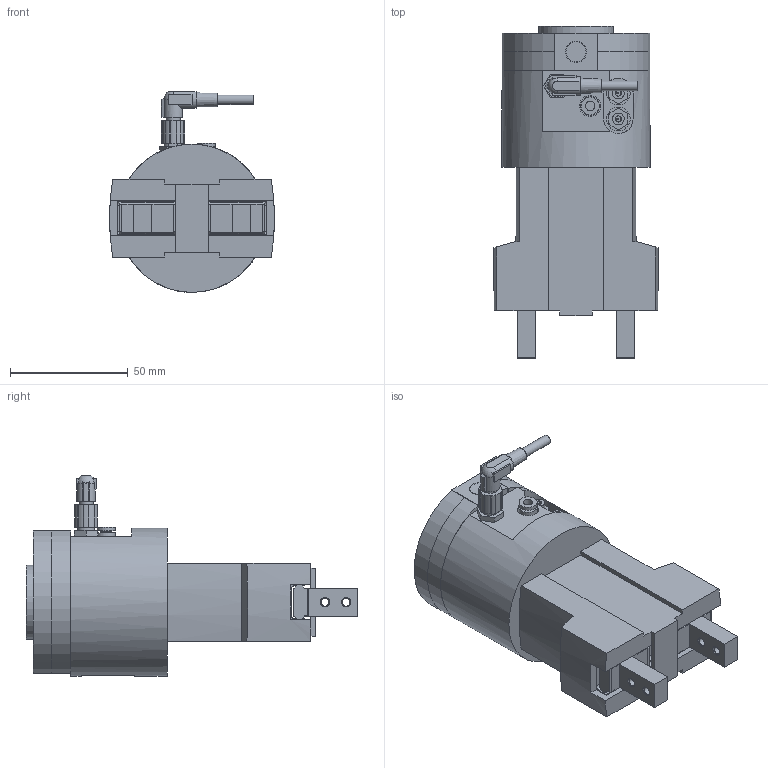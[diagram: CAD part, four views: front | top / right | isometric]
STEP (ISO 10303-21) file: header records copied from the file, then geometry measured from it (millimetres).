
FILE_DESCRIPTION(/* description */ ('STEP AP242','CAx-IF Rec.Pracs.---Representation and Presentation of Product Manufacturing Information (PMI)---4.0---2014-10-13','CAx-IF Rec.Pracs.---3D Tessellated Geometry---0.4---2014-09-14','2;1'),/* implementation_level */ '2;1');
FILE_NAME(/* name */ 'RMHZ2-20D-051P-DE(50_0)',/* time_stamp */ '2026-03-12T09:43:37+01:00',/* author */ ('License CC BY-ND 4.0'),/* organization */ ('CADENAS'),/* preprocessor_version */ 'ST-DEVELOPER v20',/* originating_system */ 'PARTsolutions',/* authorisation */ ' ');
FILE_SCHEMA (('AP242_MANAGED_MODEL_BASED_3D_ENGINEERING_MIM_LF { 1 0 10303 442 1 1 4 }'));
Length unit declared in the file: millimetre
Products named in the file (10): RMHZ2-20D-051P-DE(50_0); RMH-A00-02_RMHZ2; V124-5MOU; RMH-A13-01(0)_BODY; RMH-A13-08; RMH-A00-05-N; RMH-A13-01(0)_FINGER; RMH-A00-11-A_051; RMTM2-4T2; RMH-A00-09-A(0)
Assembly tree (12 placements, depth 2):
  RMHZ2-20D-051P-DE(50_0)
    RMH-A00-02_RMHZ2
    V124-5MOU  x2
    RMH-A13-01(0)_BODY
    RMH-A13-08
    RMH-A00-05-N  x2
    RMH-A13-01(0)_FINGER  x2
    RMH-A00-11-A_051
    RMTM2-4T2
    RMH-A00-09-A(0)
Bounding box: 69.94 x 141 x 85.3 mm (x, y, z)
Volume: 268967.5 mm3; surface area: 88301.2 mm2
Topology: 12 solids, 12 shells, 688 faces, 1776 edges, 1165 vertices
Faces by surface type: plane 476, cylinder 179, cone 24, torus 8, sphere 1
Full cylindrical faces by diameter (mm): 2 x2, 2.459 x4, 2.5 x2, 2.6 x2, 2.621 x2, 3.2 x4, 3.242 x4, 4 x2, 4.134 x4, 4.3 x2, 4.79 x1, 5 x4, 5.8 x1, 6 x1, 6.6 x4, 6.9 x1, 7.7 x1, 8 x2, 8.5 x2, 9 x3, 10 x2, 11 x4, 14 x1, 31.5 x3, 63 x1
Entity records: 15693 total; most frequent: CARTESIAN_POINT 2765, DIRECTION 2641, ORIENTED_EDGE 2496, EDGE_CURVE 1248, LINE 889, VECTOR 889, AXIS2_PLACEMENT_3D 876, VERTEX_POINT 864
